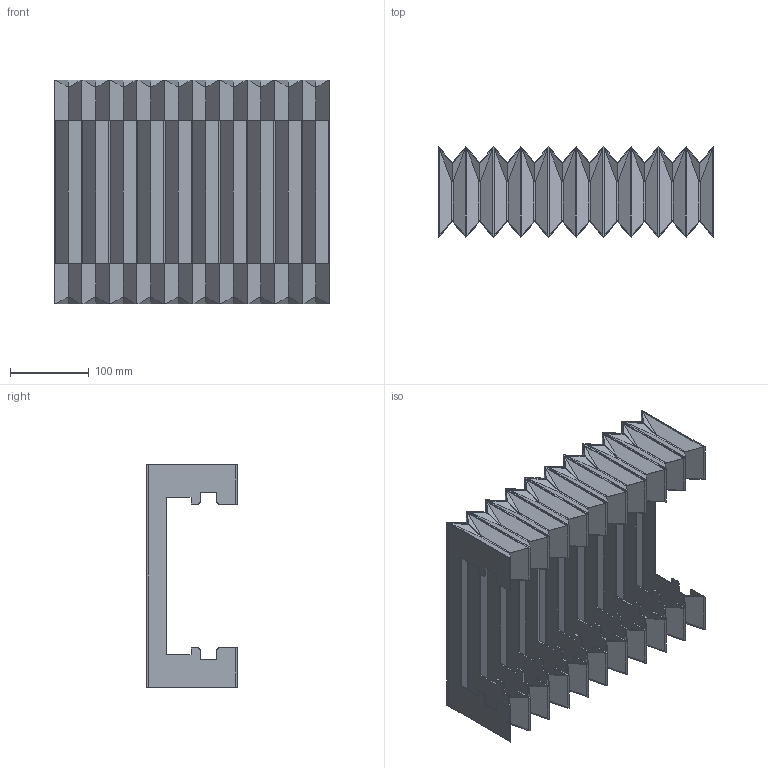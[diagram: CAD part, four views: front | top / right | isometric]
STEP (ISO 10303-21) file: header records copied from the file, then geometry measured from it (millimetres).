
FILE_DESCRIPTION((''),'2;1');
FILE_NAME('C:\Documents and Settings\Administrator\My Documents\Andys Backup Data\ANDY''S INVENTOR\INVENTOR LIBRARIES\MINITEC INVENTOR LIBRARIES\COMPONENTS LR\A PACKED FILES\STEP FILES\33.3009 PROTECTIVE BELLOW LR 180.stp','2010-06-30T11:58:38',('Administrator'),(''),'Autodesk Inventor 2009','Autodesk Inventor 2009','');
FILE_SCHEMA(('CONFIG_CONTROL_DESIGN'));
Length unit declared in the file: millimetre
Products named in the file (1): 33.3009 PROTECTIVE BELLOW LR 180
Bounding box: 350 x 115 x 285 mm (x, y, z)
Volume: 556254.8 mm3; surface area: 849411.8 mm2
Topology: 1 solids, 1 shells, 533 faces, 1533 edges, 1002 vertices
Faces by surface type: plane 389, bspline 100, cylinder 44
Entity records: 17112 total; most frequent: CARTESIAN_POINT 3369, ORIENTED_EDGE 3066, DIRECTION 2489, EDGE_CURVE 1533, VECTOR 1445, LINE 1445, VERTEX_POINT 1002, EDGE_LOOP 533
